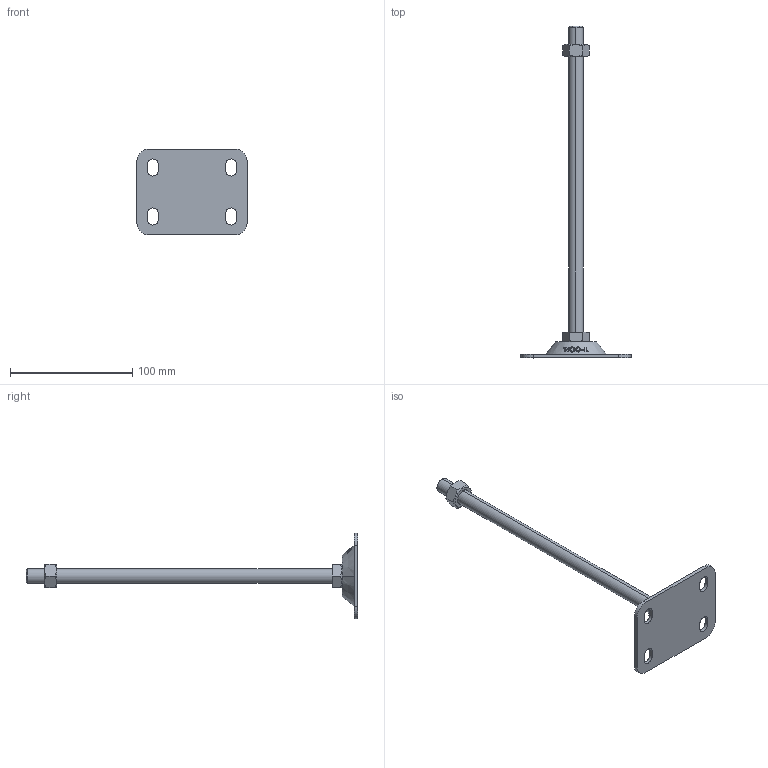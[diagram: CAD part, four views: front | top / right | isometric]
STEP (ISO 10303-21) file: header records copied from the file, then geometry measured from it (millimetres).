
FILE_DESCRIPTION (( 'STEP AP214' ), '1' );
FILE_NAME ('FABL7090-M12-250.step', '2021-03-28T23:51:05', ( '' ), ( '' ), 'SwSTEP 2.0', 'SolidWorks 2019', '' );
FILE_SCHEMA (( 'AUTOMOTIVE_DESIGN' ));
Length unit declared in the file: millimetre
Products named in the file (2): FABL7090-M12-250
Bounding box: 90 x 271 x 70 mm (x, y, z)
Volume: 64008.5 mm3; surface area: 25022.4 mm2
Topology: 2 solids, 2 shells, 142 faces, 369 edges, 242 vertices
Faces by surface type: plane 58, cylinder 44, cone 22, bspline 18
Entity records: 5925 total; most frequent: CARTESIAN_POINT 2627, ORIENTED_EDGE 738, DIRECTION 553, EDGE_CURVE 369, VERTEX_POINT 242, AXIS2_PLACEMENT_3D 198, EDGE_LOOP 163, LINE 157
